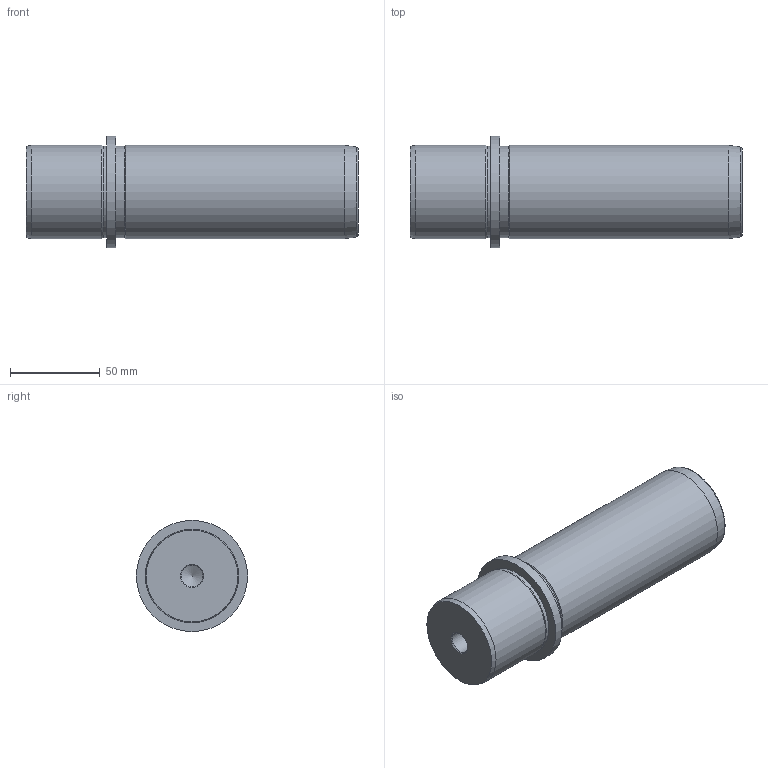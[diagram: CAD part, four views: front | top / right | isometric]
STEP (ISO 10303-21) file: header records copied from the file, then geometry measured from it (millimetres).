
FILE_DESCRIPTION(/* description */ ('Impex Ready, www.impex-ready.pl'),/* implementation_level */ '2;1');
FILE_NAME(/* name */ 'C:\Users\VIKKY\Nextcloud\SM\projekt 10 - części na stronę internetową\Pliki_3D_new\292 Słupy CE\292_CE_STEP\CE52140.ipt.step',/* time_stamp */ '2021-12-17T13:44:11+01:00',/* author */ ('SM'),/* organization */ (''),/* preprocessor_version */ 'ST-DEVELOPER v18.1',/* originating_system */ 'Autodesk Inventor 2021',/* authorisation */ '');
FILE_SCHEMA (('AUTOMOTIVE_DESIGN { 1 0 10303 214 3 1 1 }'));
Length unit declared in the file: millimetre
Products named in the file (1): CE52140
Bounding box: 185 x 62 x 62 mm (x, y, z)
Volume: 392888.9 mm3; surface area: 37282.6 mm2
Topology: 1 solids, 1 shells, 17 faces, 31 edges, 18 vertices
Faces by surface type: cone 6, cylinder 6, plane 4, torus 1
Full cylindrical faces by diameter (mm): 12 x1, 51 x2, 52 x2, 62 x1
Entity records: 508 total; most frequent: DIRECTION 84, CARTESIAN_POINT 66, ORIENTED_EDGE 60, AXIS2_PLACEMENT_3D 36, EDGE_CURVE 30, EDGE_LOOP 20, CIRCLE 18, VERTEX_POINT 18
